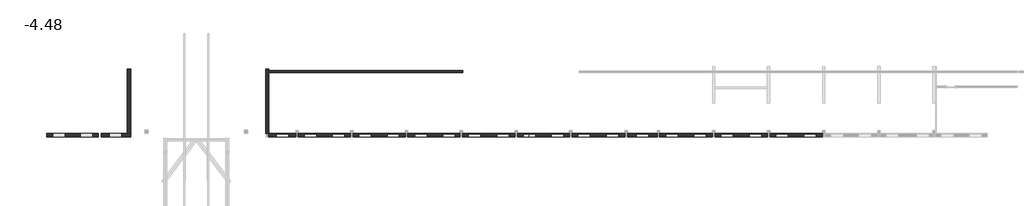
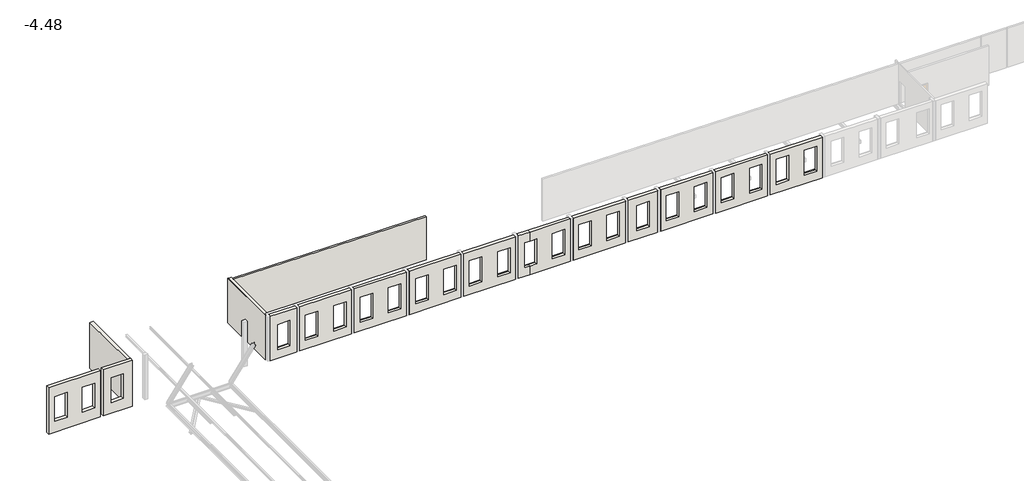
# One storey, part 1 of 4: 17 walls.
"""IFC4 building model written with IfcOpenShell, lengths in millimetres."""

from ifc_helpers import new_model, si_unit, frame, origin, place, context, project, spatial, polyline, outline, extrude, faceted_brep, element, save

model = new_model("IFC4")

# Units and contexts
model_context = context("Model", 3, world=origin())
ifc_project = project(units=[si_unit("LENGTHUNIT", "METRE", prefix="MILLI")], contexts=[model_context])

# Site, building, storey
site = spatial("IfcSite", under=ifc_project)
building = spatial("IfcBuilding", under=site)
storey = spatial("IfcBuildingStorey", under=building, Name="-4.48", Elevation=-4480.0)

# Walls
placement = place(None, origin())
element("IfcWall", 1, ObjectType="Generic - 30", at=placement, inside=storey, context=model_context, shape_type="SweptSolid", body=[
    extrude(outline(polyline([(-4480.0, -5186.275001), (-4480.0, -600.2749632), (-170.142578, -600.2749632), (-154.2740657, -5186.275001), (-4480.0, -5186.275001)]), holes=[polyline([(-3470.0, -3523.2749632), (-3470.0, -4623.2749632), (-1170.0, -4623.2749632), (-1170.0, -3523.2749632), (-3470.0, -3523.2749632)]), polyline([(-3470.0, -1089.2749632), (-3470.0, -2189.2749632), (-1170.0, -2189.2749632), (-1170.0, -1089.2749632), (-3470.0, -1089.2749632)])]), frame((0.0, 23913.3893107, 0.0), z_axis=(0.0, 1.0, 0.0), x_axis=(0.0, 0.0, 1.0)), (0.0, 0.0, 1.0), 300.0),
])
element("IfcWall", 2, ObjectType="Generic - 30", at=placement, inside=storey, context=model_context, shape_type="SweptSolid", body=[
    extrude(outline(polyline([(-4480.0, -346.2723874), (-4480.0, 2248.7276126), (-180.0007184, 2248.7276126), (-171.0214796, -346.2723874), (-4480.0, -346.2723874)]), holes=[polyline([(-3470.0, 1447.7276126), (-3470.0, 347.7276126), (-1170.0, 347.7276126), (-1170.0, 1447.7276126), (-3470.0, 1447.7276126)])]), frame((0.0, 23913.3893107, 0.0), z_axis=(0.0, 1.0, 0.0), x_axis=(0.0, 0.0, 1.0)), (0.0, 0.0, 1.0), 300.0),
])
element("IfcWall", 3, ObjectType="muro 15cm", at=placement, inside=storey, context=model_context, shape_type="Brep", body=[
    faceted_brep([(14467.3573777, 29613.3947423, -4480.0), (31567.3573777, 29613.3947423, -4480.0), (31567.3573777, 29613.3947423, -456.113878), (14467.3573777, 29613.3947423, -331.8172029), (14467.3573777, 29763.3947423, -4480.0), (14467.3573777, 29763.3947423, -331.8172029), (31487.3573777, 29763.3947423, -455.5323731), (31567.3573777, 29763.3947423, -456.113878), (31567.3573777, 29763.3947423, -4090.0), (31567.3573777, 29763.3947423, -4480.0)], [[[0, 1, 2, 3]], [[4, 5, 6, 7, 8, 9]], [[1, 0, 4, 9]], [[2, 1, 9, 8, 7]], [[0, 3, 5, 4]], [[3, 2, 7, 6, 5]]]),
])
element("IfcWall", 4, ObjectType="muro 30cm", at=placement, inside=storey, context=model_context, shape_type="Brep", body=[
    faceted_brep([(58737.3573777, 23913.3920265, -4480.0), (63357.3573777, 23913.3920265, -4480.0), (63357.3573777, 23913.3920265, -687.1893929), (58737.3573777, 23913.3920265, -653.6074842), (62827.3573777, 23913.3920265, -1330.0), (62827.3573777, 23913.3920265, -3680.0), (61727.3573777, 23913.3920265, -3680.0), (61727.3573777, 23913.3920265, -1330.0), (60337.3573777, 23913.3920265, -1330.0), (60337.3573777, 23913.3920265, -3680.0), (59237.3573777, 23913.3920265, -3680.0), (59237.3573777, 23913.3920265, -1330.0), (63357.3573777, 24213.3920265, -4480.0), (58737.3573777, 24213.3920265, -4480.0), (58737.3573777, 24213.3920265, -960.6681531), (58737.3573777, 24213.3920265, -900.6681531), (58737.3573777, 24213.3920265, -653.6074842), (63357.3573777, 24213.3920265, -687.1893929), (63357.3573777, 24213.3920265, -947.1587807), (63357.3573777, 24213.3920265, -1007.1587807), (61682.3573777, 24213.3920265, -1285.0), (61682.3573777, 24213.3920265, -3675.0), (62872.3573777, 24213.3920265, -3675.0), (62872.3573777, 24213.3920265, -1285.0), (59192.3573777, 24213.3920265, -1285.0), (59192.3573777, 24213.3920265, -3675.0), (60382.3573777, 24213.3920265, -3675.0), (60382.3573777, 24213.3920265, -1285.0), (61727.3573777, 24153.3920265, -3680.0), (62827.3573777, 24153.3920265, -3680.0), (62827.3573777, 24153.3920265, -3675.0), (61727.3573777, 24153.3920265, -3675.0), (62827.3573777, 24153.3920265, -1330.0), (61727.3573777, 24153.3920265, -1330.0), (61682.3573777, 24153.3920265, -3675.0), (61682.3573777, 24153.3920265, -1285.0), (62872.3573777, 24153.3920265, -1285.0), (62872.3573777, 24153.3920265, -3675.0), (59237.3573777, 24153.3920265, -3680.0), (60337.3573777, 24153.3920265, -3680.0), (60337.3573777, 24153.3920265, -3675.0), (59237.3573777, 24153.3920265, -3675.0), (60337.3573777, 24153.3920265, -1330.0), (59237.3573777, 24153.3920265, -1330.0), (59192.3573777, 24153.3920265, -3675.0), (59192.3573777, 24153.3920265, -1285.0), (60382.3573777, 24153.3920265, -1285.0), (60382.3573777, 24153.3920265, -3675.0)], [[[0, 1, 2, 3], [4, 5, 6, 7], [8, 9, 10, 11]], [[12, 13, 14, 15, 16, 17, 18, 19], [20, 21, 22, 23], [24, 25, 26, 27]], [[1, 0, 13, 12]], [[2, 1, 12, 19, 18, 17]], [[0, 3, 16, 15, 14, 13]], [[28, 29, 30, 31]], [[30, 29, 5, 4, 32]], [[29, 28, 6, 5]], [[28, 31, 33, 7, 6]], [[32, 4, 7, 33]], [[30, 32, 33, 31, 34, 35, 36, 37]], [[35, 34, 21, 20]], [[31, 30, 37, 22, 21, 34]], [[37, 36, 23, 22]], [[36, 35, 20, 23]], [[3, 2, 17, 16]], [[38, 39, 40, 41]], [[40, 39, 9, 8, 42]], [[39, 38, 10, 9]], [[38, 41, 43, 11, 10]], [[42, 8, 11, 43]], [[40, 42, 43, 41, 44, 45, 46, 47]], [[45, 44, 25, 24]], [[41, 40, 47, 26, 25, 44]], [[47, 46, 27, 26]], [[46, 45, 24, 27]]]),
])
element("IfcWall", 5, ObjectType="muro 30cm", at=placement, inside=storey, context=model_context, shape_type="Brep", body=[
    faceted_brep([(53897.3573777, 23913.3920265, -4480.0), (58487.3573777, 23913.3920265, -4480.0), (58487.3573777, 23913.3920265, -651.7902813), (53897.3573777, 23913.3920265, -618.4264369), (57987.3573777, 23913.3920265, -1330.0), (57987.3573777, 23913.3920265, -3680.0), (56887.3573777, 23913.3920265, -3680.0), (56887.3573777, 23913.3920265, -1330.0), (55497.3573777, 23913.3920265, -1330.0), (55497.3573777, 23913.3920265, -3680.0), (54397.3573777, 23913.3920265, -3680.0), (54397.3573777, 23913.3920265, -1330.0), (58487.3573777, 24213.3920265, -4480.0), (53897.3573777, 24213.3920265, -4480.0), (53897.3573777, 24213.3920265, -939.8694873), (53897.3573777, 24213.3920265, -879.8694873), (53897.3573777, 24213.3920265, -618.4264369), (58487.3573777, 24213.3920265, -651.7902813), (58487.3573777, 24213.3920265, -911.5204386), (58487.3573777, 24213.3920265, -971.5204386), (56842.3573777, 24213.3920265, -1285.0), (56842.3573777, 24213.3920265, -3675.0), (58032.3573777, 24213.3920265, -3675.0), (58032.3573777, 24213.3920265, -1285.0), (54352.3573777, 24213.3920265, -1285.0), (54352.3573777, 24213.3920265, -3675.0), (55542.3573777, 24213.3920265, -3675.0), (55542.3573777, 24213.3920265, -1285.0), (56887.3573777, 24153.3920265, -3680.0), (57987.3573777, 24153.3920265, -3680.0), (57987.3573777, 24153.3920265, -3675.0), (56887.3573777, 24153.3920265, -3675.0), (57987.3573777, 24153.3920265, -1330.0), (56887.3573777, 24153.3920265, -1330.0), (56842.3573777, 24153.3920265, -3675.0), (56842.3573777, 24153.3920265, -1285.0), (58032.3573777, 24153.3920265, -1285.0), (58032.3573777, 24153.3920265, -3675.0), (54397.3573777, 24153.3920265, -3680.0), (55497.3573777, 24153.3920265, -3680.0), (55497.3573777, 24153.3920265, -3675.0), (54397.3573777, 24153.3920265, -3675.0), (55497.3573777, 24153.3920265, -1330.0), (54397.3573777, 24153.3920265, -1330.0), (54352.3573777, 24153.3920265, -3675.0), (54352.3573777, 24153.3920265, -1285.0), (55542.3573777, 24153.3920265, -1285.0), (55542.3573777, 24153.3920265, -3675.0)], [[[0, 1, 2, 3], [4, 5, 6, 7], [8, 9, 10, 11]], [[12, 13, 14, 15, 16, 17, 18, 19], [20, 21, 22, 23], [24, 25, 26, 27]], [[1, 0, 13, 12]], [[2, 1, 12, 19, 18, 17]], [[0, 3, 16, 15, 14, 13]], [[28, 29, 30, 31]], [[30, 29, 5, 4, 32]], [[29, 28, 6, 5]], [[28, 31, 33, 7, 6]], [[32, 4, 7, 33]], [[30, 32, 33, 31, 34, 35, 36, 37]], [[35, 34, 21, 20]], [[31, 30, 37, 22, 21, 34]], [[37, 36, 23, 22]], [[36, 35, 20, 23]], [[3, 2, 17, 16]], [[38, 39, 40, 41]], [[40, 39, 9, 8, 42]], [[39, 38, 10, 9]], [[38, 41, 43, 11, 10]], [[42, 8, 11, 43]], [[40, 42, 43, 41, 44, 45, 46, 47]], [[45, 44, 25, 24]], [[41, 40, 47, 26, 25, 44]], [[47, 46, 27, 26]], [[46, 45, 24, 27]]]),
])
element("IfcWall", 6, ObjectType="muro 30cm", at=placement, inside=storey, context=model_context, shape_type="Brep", body=[
    faceted_brep([(41267.3573777, 23913.3920265, -4480.0), (45917.3573777, 23913.3920265, -4480.0), (45917.3573777, 23913.3920265, -560.4213218), (41267.3573777, 23913.3920265, -526.6213488), (45357.3573777, 23913.3920265, -1330.0), (45357.3573777, 23913.3920265, -3680.0), (44257.3573777, 23913.3920265, -3680.0), (44257.3573777, 23913.3920265, -1330.0), (42867.3573777, 23913.3920265, -1330.0), (42867.3573777, 23913.3920265, -3680.0), (41767.3573777, 23913.3920265, -3680.0), (41767.3573777, 23913.3920265, -1330.0), (45917.3573777, 24213.3920265, -4480.0), (41267.3573777, 24213.3920265, -4480.0), (41267.3573777, 24213.3920265, -845.4429488), (41267.3573777, 24213.3920265, -785.4429488), (41267.3573777, 24213.3920265, -526.6213488), (45917.3573777, 24213.3920265, -560.4213218), (45917.3573777, 24213.3920265, -820.0660498), (45917.3573777, 24213.3920265, -880.0660498), (44212.3573777, 24213.3920265, -1285.0), (44212.3573777, 24213.3920265, -3675.0), (45402.3573777, 24213.3920265, -3675.0), (45402.3573777, 24213.3920265, -1285.0), (41722.3573777, 24213.3920265, -1285.0), (41722.3573777, 24213.3920265, -3675.0), (42912.3573777, 24213.3920265, -3675.0), (42912.3573777, 24213.3920265, -1285.0), (44257.3573777, 24153.3920265, -3680.0), (45357.3573777, 24153.3920265, -3680.0), (45357.3573777, 24153.3920265, -3675.0), (44257.3573777, 24153.3920265, -3675.0), (45357.3573777, 24153.3920265, -1330.0), (44257.3573777, 24153.3920265, -1330.0), (44212.3573777, 24153.3920265, -3675.0), (44212.3573777, 24153.3920265, -1285.0), (45402.3573777, 24153.3920265, -1285.0), (45402.3573777, 24153.3920265, -3675.0), (41767.3573777, 24153.3920265, -3680.0), (42867.3573777, 24153.3920265, -3680.0), (42867.3573777, 24153.3920265, -3675.0), (41767.3573777, 24153.3920265, -3675.0), (42867.3573777, 24153.3920265, -1330.0), (41767.3573777, 24153.3920265, -1330.0), (41722.3573777, 24153.3920265, -3675.0), (41722.3573777, 24153.3920265, -1285.0), (42912.3573777, 24153.3920265, -1285.0), (42912.3573777, 24153.3920265, -3675.0)], [[[0, 1, 2, 3], [4, 5, 6, 7], [8, 9, 10, 11]], [[12, 13, 14, 15, 16, 17, 18, 19], [20, 21, 22, 23], [24, 25, 26, 27]], [[1, 0, 13, 12]], [[2, 1, 12, 19, 18, 17]], [[0, 3, 16, 15, 14, 13]], [[3, 2, 17, 16]], [[28, 29, 30, 31]], [[30, 29, 5, 4, 32]], [[29, 28, 6, 5]], [[28, 31, 33, 7, 6]], [[32, 4, 7, 33]], [[30, 32, 33, 31, 34, 35, 36, 37]], [[35, 34, 21, 20]], [[31, 30, 37, 22, 21, 34]], [[37, 36, 23, 22]], [[36, 35, 20, 23]], [[38, 39, 40, 41]], [[40, 39, 9, 8, 42]], [[39, 38, 10, 9]], [[38, 41, 43, 11, 10]], [[42, 8, 11, 43]], [[40, 42, 43, 41, 44, 45, 46, 47]], [[45, 44, 25, 24]], [[41, 40, 47, 26, 25, 44]], [[47, 46, 27, 26]], [[46, 45, 24, 27]]]),
])
element("IfcWall", 7, ObjectType="muro 30cm", at=placement, inside=storey, context=model_context, shape_type="Brep", body=[
    faceted_brep([(36427.3573777, 23913.3920265, -4480.0), (37427.3573777, 23913.3920265, -4480.0), (37427.3573777, 23913.3920265, -3680.0), (36927.3573777, 23913.3920265, -3680.0), (36927.3573777, 23913.3920265, -1330.0), (37427.3573777, 23913.3920265, -1330.0), (37427.3573777, 23913.3920265, -498.7091129), (36427.3573777, 23913.3920265, -491.4403015), (37427.3573777, 24213.3920265, -4480.0), (36427.3573777, 24213.3920265, -4480.0), (36427.3573777, 24213.3920265, -810.463618), (36427.3573777, 24213.3920265, -750.463618), (36427.3573777, 24213.3920265, -491.4403015), (37427.3573777, 24213.3920265, -498.7091129), (37427.3573777, 24213.3920265, -1285.0), (36882.3573777, 24213.3920265, -1285.0), (36882.3573777, 24213.3920265, -3675.0), (37427.3573777, 24213.3920265, -3675.0), (37427.3573777, 24153.3920265, -3675.0), (37427.3573777, 24153.3920265, -3680.0), (37427.3573777, 24153.3920265, -1330.0), (37427.3573777, 24153.3920265, -1285.0), (36927.3573777, 24153.3920265, -3675.0), (36927.3573777, 24153.3920265, -3680.0), (36927.3573777, 24153.3920265, -1330.0), (36882.3573777, 24153.3920265, -3675.0), (36882.3573777, 24153.3920265, -1285.0)], [[[0, 1, 2, 3, 4, 5, 6, 7]], [[8, 9, 10, 11, 12, 13, 14, 15, 16, 17]], [[1, 0, 9, 8]], [[1, 8, 17, 18, 19, 2]], [[13, 6, 5, 20, 21, 14]], [[0, 7, 12, 11, 10, 9]], [[7, 6, 13, 12]], [[22, 23, 19, 18]], [[23, 3, 2, 19]], [[23, 22, 24, 4, 3]], [[4, 24, 20, 5]], [[24, 22, 25, 26, 21, 20]], [[26, 25, 16, 15]], [[25, 22, 18, 17, 16]], [[26, 15, 14, 21]]]),
])
element("IfcWall", 8, ObjectType="muro 30cm", at=placement, inside=storey, context=model_context, shape_type="Brep", body=[
    faceted_brep([(31587.3573777, 23913.3920265, -4480.0), (36177.3573777, 23913.3920265, -4480.0), (36177.3573777, 23913.3920265, -489.6230987), (31587.3573777, 23913.3920265, -456.2592543), (35677.3573777, 23913.3920265, -1330.0), (35677.3573777, 23913.3920265, -3680.0), (34577.3573777, 23913.3920265, -3680.0), (34577.3573777, 23913.3920265, -1330.0), (33187.3573777, 23913.3920265, -1330.0), (33187.3573777, 23913.3920265, -3680.0), (32087.3573777, 23913.3920265, -3680.0), (32087.3573777, 23913.3920265, -1330.0), (36177.3573777, 24213.3920265, -4480.0), (31587.3573777, 24213.3920265, -4480.0), (31587.3573777, 24213.3920265, -775.7714068), (31587.3573777, 24213.3920265, -715.7714068), (31587.3573777, 24213.3920265, -456.2592543), (36177.3573777, 24213.3920265, -489.6230987), (36177.3573777, 24213.3920265, -749.4050275), (36177.3573777, 24213.3920265, -809.4050275), (34532.3573777, 24213.3920265, -1285.0), (34532.3573777, 24213.3920265, -3675.0), (35722.3573777, 24213.3920265, -3675.0), (35722.3573777, 24213.3920265, -1285.0), (32042.3573777, 24213.3920265, -1285.0), (32042.3573777, 24213.3920265, -3675.0), (33232.3573777, 24213.3920265, -3675.0), (33232.3573777, 24213.3920265, -1285.0), (32087.3573777, 24153.3920265, -3680.0), (33187.3573777, 24153.3920265, -3680.0), (33187.3573777, 24153.3920265, -3675.0), (32087.3573777, 24153.3920265, -3675.0), (33187.3573777, 24153.3920265, -1330.0), (32087.3573777, 24153.3920265, -1330.0), (32042.3573777, 24153.3920265, -1285.0), (33232.3573777, 24153.3920265, -1285.0), (33232.3573777, 24153.3920265, -3675.0), (32042.3573777, 24153.3920265, -3675.0), (34577.3573777, 24153.3920265, -3680.0), (35677.3573777, 24153.3920265, -3680.0), (35677.3573777, 24153.3920265, -3675.0), (34577.3573777, 24153.3920265, -3675.0), (35677.3573777, 24153.3920265, -1330.0), (34577.3573777, 24153.3920265, -1330.0), (34532.3573777, 24153.3920265, -3675.0), (34532.3573777, 24153.3920265, -1285.0), (35722.3573777, 24153.3920265, -1285.0), (35722.3573777, 24153.3920265, -3675.0)], [[[0, 1, 2, 3], [4, 5, 6, 7], [8, 9, 10, 11]], [[12, 13, 14, 15, 16, 17, 18, 19], [20, 21, 22, 23], [24, 25, 26, 27]], [[1, 0, 13, 12]], [[2, 1, 12, 19, 18, 17]], [[0, 3, 16, 15, 14, 13]], [[28, 29, 30, 31]], [[29, 9, 8, 32, 30]], [[29, 28, 10, 9]], [[10, 28, 31, 33, 11]], [[32, 8, 11, 33]], [[34, 35, 36, 30, 32, 33, 31, 37]], [[34, 37, 25, 24]], [[25, 37, 31, 30, 36, 26]], [[36, 35, 27, 26]], [[35, 34, 24, 27]], [[3, 2, 17, 16]], [[38, 39, 40, 41]], [[40, 39, 5, 4, 42]], [[39, 38, 6, 5]], [[38, 41, 43, 7, 6]], [[42, 4, 7, 43]], [[40, 42, 43, 41, 44, 45, 46, 47]], [[45, 44, 21, 20]], [[41, 40, 47, 22, 21, 44]], [[47, 46, 23, 22]], [[46, 45, 20, 23]]]),
])
element("IfcWall", 9, ObjectType="muro 30cm", at=placement, inside=storey, context=model_context, shape_type="Brep", body=[
    faceted_brep([(26747.3573777, 23913.3920265, -4480.0), (31337.3573777, 23913.3920265, -4480.0), (31337.3573777, 23913.3920265, -454.4420514), (26747.3573777, 23913.3920265, -421.078207), (30927.3573777, 23913.3920265, -1330.0), (30927.3573777, 23913.3920265, -3680.0), (29827.3573777, 23913.3920265, -3680.0), (29827.3573777, 23913.3920265, -1330.0), (28437.3573777, 23913.3920265, -1330.0), (28437.3573777, 23913.3920265, -3680.0), (27337.3573777, 23913.3920265, -3680.0), (27337.3573777, 23913.3920265, -1330.0), (31337.3573777, 24213.3920265, -4480.0), (26747.3573777, 24213.3920265, -4480.0), (26747.3573777, 24213.3920265, -741.631847), (26747.3573777, 24213.3920265, -681.631847), (26747.3573777, 24213.3920265, -421.078207), (31337.3573777, 24213.3920265, -454.4420514), (31337.3573777, 24213.3920265, -714.2762435), (31337.3573777, 24213.3920265, -774.2762435), (29782.3573777, 24213.3920265, -1285.0), (29782.3573777, 24213.3920265, -3675.0), (30972.3573777, 24213.3920265, -3675.0), (30972.3573777, 24213.3920265, -1285.0), (27292.3573777, 24213.3920265, -1285.0), (27292.3573777, 24213.3920265, -3675.0), (28482.3573777, 24213.3920265, -3675.0), (28482.3573777, 24213.3920265, -1285.0), (29827.3573777, 24153.3920265, -3680.0), (30927.3573777, 24153.3920265, -3680.0), (30927.3573777, 24153.3920265, -3675.0), (29827.3573777, 24153.3920265, -3675.0), (30927.3573777, 24153.3920265, -1330.0), (29827.3573777, 24153.3920265, -1330.0), (29782.3573777, 24153.3920265, -3675.0), (29782.3573777, 24153.3920265, -1285.0), (30972.3573777, 24153.3920265, -1285.0), (30972.3573777, 24153.3920265, -3675.0), (27337.3573777, 24153.3920265, -3680.0), (28437.3573777, 24153.3920265, -3680.0), (28437.3573777, 24153.3920265, -3675.0), (27337.3573777, 24153.3920265, -3675.0), (28437.3573777, 24153.3920265, -1330.0), (27337.3573777, 24153.3920265, -1330.0), (27292.3573777, 24153.3920265, -3675.0), (27292.3573777, 24153.3920265, -1285.0), (28482.3573777, 24153.3920265, -1285.0), (28482.3573777, 24153.3920265, -3675.0)], [[[0, 1, 2, 3], [4, 5, 6, 7], [8, 9, 10, 11]], [[12, 13, 14, 15, 16, 17, 18, 19], [20, 21, 22, 23], [24, 25, 26, 27]], [[1, 0, 13, 12]], [[2, 1, 12, 19, 18, 17]], [[0, 3, 16, 15, 14, 13]], [[3, 2, 17, 16]], [[28, 29, 30, 31]], [[30, 29, 5, 4, 32]], [[29, 28, 6, 5]], [[28, 31, 33, 7, 6]], [[32, 4, 7, 33]], [[30, 32, 33, 31, 34, 35, 36, 37]], [[35, 34, 21, 20]], [[31, 30, 37, 22, 21, 34]], [[37, 36, 23, 22]], [[36, 35, 20, 23]], [[38, 39, 40, 41]], [[40, 39, 9, 8, 42]], [[39, 38, 10, 9]], [[38, 41, 43, 11, 10]], [[42, 8, 11, 43]], [[40, 42, 43, 41, 44, 45, 46, 47]], [[45, 44, 25, 24]], [[41, 40, 47, 26, 25, 44]], [[47, 46, 27, 26]], [[46, 45, 24, 27]]]),
])
element("IfcWall", 10, ObjectType="muro 30cm", at=placement, inside=storey, context=model_context, shape_type="Brep", body=[
    faceted_brep([(21907.3573777, 23913.3920265, -4480.0), (26497.3573777, 23913.3920265, -4480.0), (26497.3573777, 23913.3920265, -420.0), (26497.3573777, 23913.3920265, -419.2610042), (21907.3573777, 23913.3920265, -385.8971598), (25997.3573777, 23913.3920265, -1330.0), (25997.3573777, 23913.3920265, -3680.0), (24897.3573777, 23913.3920265, -3680.0), (24897.3573777, 23913.3920265, -1330.0), (23507.3573777, 23913.3920265, -1330.0), (23507.3573777, 23913.3920265, -3680.0), (22407.3573777, 23913.3920265, -3680.0), (22407.3573777, 23913.3920265, -1330.0), (26497.3573777, 24213.3920265, -4480.0), (21907.3573777, 24213.3920265, -4480.0), (21907.3573777, 24213.3920265, -685.6492091), (21907.3573777, 24213.3920265, -625.6492091), (21907.3573777, 24213.3920265, -385.8971598), (26497.3573777, 24213.3920265, -419.2610042), (26497.3573777, 24213.3920265, -678.0780884), (26497.3573777, 24213.3920265, -738.0780884), (24852.3573777, 24213.3920265, -1285.0), (24852.3573777, 24213.3920265, -3675.0), (26042.3573777, 24213.3920265, -3675.0), (26042.3573777, 24213.3920265, -1285.0), (22362.3573777, 24213.3920265, -1285.0), (22362.3573777, 24213.3920265, -3675.0), (23552.3573777, 24213.3920265, -3675.0), (23552.3573777, 24213.3920265, -1285.0), (24897.3573777, 24153.3920265, -3680.0), (25997.3573777, 24153.3920265, -3680.0), (25997.3573777, 24153.3920265, -3675.0), (24897.3573777, 24153.3920265, -3675.0), (25997.3573777, 24153.3920265, -1330.0), (24897.3573777, 24153.3920265, -1330.0), (24852.3573777, 24153.3920265, -3675.0), (24852.3573777, 24153.3920265, -1285.0), (26042.3573777, 24153.3920265, -1285.0), (26042.3573777, 24153.3920265, -3675.0), (22407.3573777, 24153.3920265, -3680.0), (23507.3573777, 24153.3920265, -3680.0), (23507.3573777, 24153.3920265, -3675.0), (22407.3573777, 24153.3920265, -3675.0), (23507.3573777, 24153.3920265, -1330.0), (22407.3573777, 24153.3920265, -1330.0), (22362.3573777, 24153.3920265, -3675.0), (22362.3573777, 24153.3920265, -1285.0), (23552.3573777, 24153.3920265, -1285.0), (23552.3573777, 24153.3920265, -3675.0)], [[[0, 1, 2, 3, 4], [5, 6, 7, 8], [9, 10, 11, 12]], [[13, 14, 15, 16, 17, 18, 19, 20], [21, 22, 23, 24], [25, 26, 27, 28]], [[1, 0, 14, 13]], [[3, 2, 1, 13, 20, 19, 18]], [[0, 4, 17, 16, 15, 14]], [[4, 3, 18, 17]], [[29, 30, 31, 32]], [[31, 30, 6, 5, 33]], [[30, 29, 7, 6]], [[29, 32, 34, 8, 7]], [[33, 5, 8, 34]], [[31, 33, 34, 32, 35, 36, 37, 38]], [[36, 35, 22, 21]], [[32, 31, 38, 23, 22, 35]], [[38, 37, 24, 23]], [[37, 36, 21, 24]], [[39, 40, 41, 42]], [[41, 40, 10, 9, 43]], [[40, 39, 11, 10]], [[39, 42, 44, 12, 11]], [[43, 9, 12, 44]], [[41, 43, 44, 42, 45, 46, 47, 48]], [[46, 45, 26, 25]], [[42, 41, 48, 27, 26, 45]], [[48, 47, 28, 27]], [[47, 46, 25, 28]]]),
])
element("IfcWall", 11, ObjectType="muro 30cm", at=placement, inside=storey, context=model_context, shape_type="Brep", body=[
    faceted_brep([(17067.3573777, 23913.3920265, -4480.0), (21657.3573777, 23913.3920265, -4480.0), (21657.3573777, 23913.3920265, -384.0799569), (17067.3573777, 23913.3920265, -350.7161125), (21157.3573777, 23913.3920265, -1330.0), (21157.3573777, 23913.3920265, -3680.0), (20057.3573777, 23913.3920265, -3680.0), (20057.3573777, 23913.3920265, -1330.0), (18667.3573777, 23913.3920265, -1330.0), (18667.3573777, 23913.3920265, -3680.0), (17567.3573777, 23913.3920265, -3680.0), (17567.3573777, 23913.3920265, -1330.0), (21657.3573777, 24213.3920265, -4480.0), (17067.3573777, 24213.3920265, -4480.0), (17067.3573777, 24213.3920265, -666.8466581), (17067.3573777, 24213.3920265, -606.8466581), (17067.3573777, 24213.3920265, -350.7161125), (21657.3573777, 24213.3920265, -384.0799569), (21657.3573777, 24213.3920265, -640.4802788), (21657.3573777, 24213.3920265, -700.4802788), (20012.3573777, 24213.3920265, -1285.0), (20012.3573777, 24213.3920265, -3675.0), (21202.3573777, 24213.3920265, -3675.0), (21202.3573777, 24213.3920265, -1285.0), (17522.3573777, 24213.3920265, -1285.0), (17522.3573777, 24213.3920265, -3675.0), (18712.3573777, 24213.3920265, -3675.0), (18712.3573777, 24213.3920265, -1285.0), (20057.3573777, 24153.3920265, -3680.0), (21157.3573777, 24153.3920265, -3680.0), (21157.3573777, 24153.3920265, -3675.0), (20057.3573777, 24153.3920265, -3675.0), (21157.3573777, 24153.3920265, -1330.0), (20057.3573777, 24153.3920265, -1330.0), (20012.3573777, 24153.3920265, -3675.0), (20012.3573777, 24153.3920265, -1285.0), (21202.3573777, 24153.3920265, -1285.0), (21202.3573777, 24153.3920265, -3675.0), (17567.3573777, 24153.3920265, -3680.0), (18667.3573777, 24153.3920265, -3680.0), (18667.3573777, 24153.3920265, -3675.0), (17567.3573777, 24153.3920265, -3675.0), (18667.3573777, 24153.3920265, -1330.0), (17567.3573777, 24153.3920265, -1330.0), (17522.3573777, 24153.3920265, -3675.0), (17522.3573777, 24153.3920265, -1285.0), (18712.3573777, 24153.3920265, -1285.0), (18712.3573777, 24153.3920265, -3675.0)], [[[0, 1, 2, 3], [4, 5, 6, 7], [8, 9, 10, 11]], [[12, 13, 14, 15, 16, 17, 18, 19], [20, 21, 22, 23], [24, 25, 26, 27]], [[1, 0, 13, 12]], [[2, 1, 12, 19, 18, 17]], [[0, 3, 16, 15, 14, 13]], [[3, 2, 17, 16]], [[28, 29, 30, 31]], [[30, 29, 5, 4, 32]], [[29, 28, 6, 5]], [[28, 31, 33, 7, 6]], [[32, 4, 7, 33]], [[30, 32, 33, 31, 34, 35, 36, 37]], [[35, 34, 21, 20]], [[31, 30, 37, 22, 21, 34]], [[37, 36, 23, 22]], [[36, 35, 20, 23]], [[38, 39, 40, 41]], [[40, 39, 9, 8, 42]], [[39, 38, 10, 9]], [[38, 41, 43, 11, 10]], [[42, 8, 11, 43]], [[40, 42, 43, 41, 44, 45, 46, 47]], [[45, 44, 25, 24]], [[41, 40, 47, 26, 25, 44]], [[47, 46, 27, 26]], [[46, 45, 24, 27]]]),
])
element("IfcWall", 12, ObjectType="muro 30cm", at=placement, inside=storey, context=model_context, shape_type="Brep", body=[
    faceted_brep([(49007.3573777, 23913.3920265, -4480.0), (53647.3573777, 23913.3920265, -4480.0), (53647.3573777, 23913.3920265, -618.4264369), (53647.3573777, 23913.3920265, -616.6092341), (49007.3573777, 23913.3920265, -582.8819491), (50607.3573777, 23913.3920265, -1330.0), (50607.3573777, 23913.3920265, -3680.0), (49507.3573777, 23913.3920265, -3680.0), (49507.3573777, 23913.3920265, -1330.0), (53097.3573777, 23913.3920265, -1330.0), (53097.3573777, 23913.3920265, -3680.0), (51997.3573777, 23913.3920265, -3680.0), (51997.3573777, 23913.3920265, -1330.0), (53647.3573777, 24213.3920265, -4480.0), (49007.3573777, 24213.3920265, -4480.0), (49007.3573777, 24213.3920265, -903.1373839), (49007.3573777, 24213.3920265, -843.1373839), (49007.3573777, 24213.3920265, -582.8819491), (53647.3573777, 24213.3920265, -616.6092341), (53647.3573777, 24213.3920265, -877.7596814), (53647.3573777, 24213.3920265, -937.7596814), (49462.3573777, 24213.3920265, -3675.0), (50652.3573777, 24213.3920265, -3675.0), (50652.3573777, 24213.3920265, -1285.0), (49462.3573777, 24213.3920265, -1285.0), (51952.3573777, 24213.3920265, -1285.0), (51952.3573777, 24213.3920265, -3675.0), (53142.3573777, 24213.3920265, -3675.0), (53142.3573777, 24213.3920265, -1285.0), (49507.3573777, 24153.3920265, -3680.0), (50607.3573777, 24153.3920265, -3680.0), (50607.3573777, 24153.3920265, -3675.0), (49507.3573777, 24153.3920265, -3675.0), (50607.3573777, 24153.3920265, -1330.0), (49507.3573777, 24153.3920265, -1330.0), (49462.3573777, 24153.3920265, -3675.0), (49462.3573777, 24153.3920265, -1285.0), (50652.3573777, 24153.3920265, -1285.0), (50652.3573777, 24153.3920265, -3675.0), (51997.3573777, 24153.3920265, -3680.0), (53097.3573777, 24153.3920265, -3680.0), (53097.3573777, 24153.3920265, -3675.0), (51997.3573777, 24153.3920265, -3675.0), (53097.3573777, 24153.3920265, -1330.0), (51997.3573777, 24153.3920265, -1330.0), (51952.3573777, 24153.3920265, -3675.0), (51952.3573777, 24153.3920265, -1285.0), (53142.3573777, 24153.3920265, -1285.0), (53142.3573777, 24153.3920265, -3675.0)], [[[0, 1, 2, 3, 4], [5, 6, 7, 8], [9, 10, 11, 12]], [[13, 14, 15, 16, 17, 18, 19, 20], [21, 22, 23, 24], [25, 26, 27, 28]], [[1, 0, 14, 13]], [[3, 2, 1, 13, 20, 19, 18]], [[0, 4, 17, 16, 15, 14]], [[29, 30, 31, 32]], [[31, 30, 6, 5, 33]], [[30, 29, 7, 6]], [[29, 32, 34, 8, 7]], [[33, 5, 8, 34]], [[31, 33, 34, 32, 35, 36, 37, 38]], [[36, 35, 21, 24]], [[32, 31, 38, 22, 21, 35]], [[38, 37, 23, 22]], [[37, 36, 24, 23]], [[39, 40, 41, 42]], [[41, 40, 10, 9, 43]], [[40, 39, 11, 10]], [[39, 42, 44, 12, 11]], [[43, 9, 12, 44]], [[41, 43, 44, 42, 45, 46, 47, 48]], [[46, 45, 26, 25]], [[42, 41, 48, 27, 26, 45]], [[48, 47, 28, 27]], [[47, 46, 25, 28]], [[4, 3, 18, 17]]]),
])
element("IfcWall", 13, ObjectType="muro 30cm", at=placement, inside=storey, context=model_context, shape_type="Brep", body=[
    faceted_brep([(46167.3573777, 23913.3920265, -4480.0), (48757.3573777, 23913.3920265, -4480.0), (48757.3573777, 23913.3920265, -581.0647463), (46167.3573777, 23913.3920265, -562.2385247), (48012.3573777, 23913.3920265, -1330.0), (48012.3573777, 23913.3920265, -3680.0), (46912.3573777, 23913.3920265, -3680.0), (46912.3573777, 23913.3920265, -1330.0), (48757.3573777, 24213.3920265, -4480.0), (46167.3573777, 24213.3920265, -4480.0), (46167.3573777, 24213.3920265, -881.6474595), (46167.3573777, 24213.3920265, -821.6474595), (46167.3573777, 24213.3920265, -562.2385247), (48757.3573777, 24213.3920265, -581.0647463), (48757.3573777, 24213.3920265, -841.2640736), (48757.3573777, 24213.3920265, -901.2640736), (46867.3573777, 24213.3920265, -1285.0), (46867.3573777, 24213.3920265, -3675.0), (48057.3573777, 24213.3920265, -3675.0), (48057.3573777, 24213.3920265, -1285.0), (46912.3573777, 24153.3920265, -3680.0), (48012.3573777, 24153.3920265, -3680.0), (48012.3573777, 24153.3920265, -3675.0), (46912.3573777, 24153.3920265, -3675.0), (48012.3573777, 24153.3920265, -1330.0), (46912.3573777, 24153.3920265, -1330.0), (46867.3573777, 24153.3920265, -3675.0), (46867.3573777, 24153.3920265, -1285.0), (48057.3573777, 24153.3920265, -1285.0), (48057.3573777, 24153.3920265, -3675.0)], [[[0, 1, 2, 3], [4, 5, 6, 7]], [[8, 9, 10, 11, 12, 13, 14, 15], [16, 17, 18, 19]], [[1, 0, 9, 8]], [[2, 1, 8, 15, 14, 13]], [[0, 3, 12, 11, 10, 9]], [[3, 2, 13, 12]], [[20, 21, 22, 23]], [[22, 21, 5, 4, 24]], [[21, 20, 6, 5]], [[20, 23, 25, 7, 6]], [[24, 4, 7, 25]], [[22, 24, 25, 23, 26, 27, 28, 29]], [[27, 26, 17, 16]], [[23, 22, 29, 18, 17, 26]], [[29, 28, 19, 18]], [[28, 27, 16, 19]]]),
])
element("IfcWall", 14, ObjectType="muro 30cm", at=placement, inside=storey, context=model_context, shape_type="Brep", body=[
    faceted_brep([(14467.3573777, 24223.3920265, -4480.0), (14467.3573777, 29613.3947423, -4480.0), (14467.3573777, 29763.3947423, -4480.0), (14467.3573777, 29913.3920265, -4480.0), (14467.3573777, 29913.3920265, -331.8172029), (14467.3573777, 29763.3947423, -331.8172029), (14467.3573777, 29613.3947423, -331.8172029), (14467.3573777, 24223.3920265, -331.8172029), (14167.3573777, 24223.3920265, -4480.0), (14167.3573777, 24223.3920265, -329.3827857), (14167.3573777, 29913.3920265, -329.3827857), (14167.3573777, 29913.3920265, -4480.0), (14217.3573777, 29913.3920265, -330.0094238), (14217.3573777, 24223.3920265, -330.0)], [[[0, 1, 2, 3, 4, 5, 6, 7]], [[8, 9, 10, 11]], [[3, 2, 1, 0, 8, 11]], [[4, 3, 11, 10, 12]], [[0, 7, 13, 9, 8]], [[7, 6, 5, 4, 12, 13]], [[12, 10, 9, 13]]]),
])
element("IfcWall", 15, ObjectType="muro 30cm", at=placement, inside=storey, context=model_context, shape_type="Brep", body=[
    faceted_brep([(14467.3573777, 23913.3920265, -4480.0), (16817.3573777, 23913.3920265, -4480.0), (16817.3573777, 23913.3920265, -348.8989097), (14467.3573777, 23913.3920265, -331.8172029), (16192.3573777, 23913.3920265, -1330.0), (16192.3573777, 23913.3920265, -3680.0), (15092.3573777, 23913.3920265, -3680.0), (15092.3573777, 23913.3920265, -1330.0), (14467.3573777, 24213.3920265, -4480.0), (14467.3573777, 24213.3920265, -646.8719955), (14467.3573777, 24213.3920265, -586.8719955), (14467.3573777, 24213.3920265, -331.8172029), (16817.3573777, 24213.3920265, -348.8989097), (16817.3573777, 24213.3920265, -606.4551105), (16817.3573777, 24213.3920265, -666.4551105), (16817.3573777, 24213.3920265, -4480.0), (15047.3573777, 24213.3920265, -1285.0), (15047.3573777, 24213.3920265, -3675.0), (16237.3573777, 24213.3920265, -3675.0), (16237.3573777, 24213.3920265, -1285.0), (15092.3573777, 24153.3920265, -3680.0), (16192.3573777, 24153.3920265, -3680.0), (16192.3573777, 24153.3920265, -3675.0), (15092.3573777, 24153.3920265, -3675.0), (16192.3573777, 24153.3920265, -1330.0), (15092.3573777, 24153.3920265, -1330.0), (15047.3573777, 24153.3920265, -1285.0), (16237.3573777, 24153.3920265, -1285.0), (16237.3573777, 24153.3920265, -3675.0), (15047.3573777, 24153.3920265, -3675.0)], [[[0, 1, 2, 3], [4, 5, 6, 7]], [[8, 9, 10, 11, 12, 13, 14, 15], [16, 17, 18, 19]], [[1, 0, 8, 15]], [[2, 1, 15, 14, 13, 12]], [[0, 3, 11, 10, 9, 8]], [[20, 21, 22, 23]], [[21, 5, 4, 24, 22]], [[21, 20, 6, 5]], [[6, 20, 23, 25, 7]], [[24, 4, 7, 25]], [[26, 27, 28, 22, 24, 25, 23, 29]], [[26, 29, 17, 16]], [[17, 29, 23, 22, 28, 18]], [[28, 27, 19, 18]], [[27, 26, 16, 19]], [[3, 2, 12, 11]]]),
])
element("IfcWall", 16, ObjectType="muro 30cm", at=placement, inside=storey, context=model_context, shape_type="SweptSolid", body=[
    extrude(outline(polyline([(-4480.0, 2248.7276126), (-180.0007184, 2248.7276126), (-178.9626561, 1948.7276126), (-4480.0, 1948.7276126), (-4480.0, 2248.7276126)])), frame((0.0, 24223.3920265, 0.0), z_axis=(0.0, 1.0, 0.0), x_axis=(0.0, 0.0, 1.0)), (0.0, 0.0, 1.0), 5690.0),
])
element("IfcWall", 17, ObjectType="muro 30cm", at=placement, inside=storey, context=model_context, shape_type="Brep", body=[
    faceted_brep([(37427.3573777, 23913.3920265, -4480.0), (41017.3573777, 23913.3920265, -4480.0), (41017.3573777, 23913.3920265, -524.8041459), (37427.3573777, 23913.3920265, -498.7091129), (37427.3573777, 23913.3920265, -1330.0), (38027.3573777, 23913.3920265, -1330.0), (38027.3573777, 23913.3920265, -3680.0), (37427.3573777, 23913.3920265, -3680.0), (40517.3573777, 23913.3920265, -1330.0), (40517.3573777, 23913.3920265, -3680.0), (39417.3573777, 23913.3920265, -3680.0), (39417.3573777, 23913.3920265, -1330.0), (41017.3573777, 24213.3920265, -4480.0), (37427.3573777, 24213.3920265, -4480.0), (37427.3573777, 24213.3920265, -3675.0), (38072.3573777, 24213.3920265, -3675.0), (38072.3573777, 24213.3920265, -1285.0), (37427.3573777, 24213.3920265, -1285.0), (37427.3573777, 24213.3920265, -498.7091129), (41017.3573777, 24213.3920265, -524.8041459), (41017.3573777, 24213.3920265, -784.0972387), (41017.3573777, 24213.3920265, -844.0972387), (39372.3573777, 24213.3920265, -1285.0), (39372.3573777, 24213.3920265, -3675.0), (40562.3573777, 24213.3920265, -3675.0), (40562.3573777, 24213.3920265, -1285.0), (37427.3573777, 24153.3920265, -1285.0), (37427.3573777, 24153.3920265, -1330.0), (37427.3573777, 24153.3920265, -3680.0), (37427.3573777, 24153.3920265, -3675.0), (39417.3573777, 24153.3920265, -3680.0), (40517.3573777, 24153.3920265, -3680.0), (40517.3573777, 24153.3920265, -3675.0), (39417.3573777, 24153.3920265, -3675.0), (40517.3573777, 24153.3920265, -1330.0), (39417.3573777, 24153.3920265, -1330.0), (39372.3573777, 24153.3920265, -3675.0), (39372.3573777, 24153.3920265, -1285.0), (40562.3573777, 24153.3920265, -1285.0), (40562.3573777, 24153.3920265, -3675.0), (38027.3573777, 24153.3920265, -3680.0), (38027.3573777, 24153.3920265, -3675.0), (38027.3573777, 24153.3920265, -1330.0), (38072.3573777, 24153.3920265, -1285.0), (38072.3573777, 24153.3920265, -3675.0)], [[[0, 1, 2, 3, 4, 5, 6, 7], [8, 9, 10, 11]], [[12, 13, 14, 15, 16, 17, 18, 19, 20, 21], [22, 23, 24, 25]], [[1, 0, 13, 12]], [[2, 1, 12, 21, 20, 19]], [[3, 18, 17, 26, 27, 4]], [[13, 0, 7, 28, 29, 14]], [[3, 2, 19, 18]], [[30, 31, 32, 33]], [[32, 31, 9, 8, 34]], [[31, 30, 10, 9]], [[30, 33, 35, 11, 10]], [[34, 8, 11, 35]], [[32, 34, 35, 33, 36, 37, 38, 39]], [[37, 36, 23, 22]], [[33, 32, 39, 24, 23, 36]], [[39, 38, 25, 24]], [[38, 37, 22, 25]], [[40, 41, 29, 28]], [[41, 40, 6, 5, 42]], [[6, 40, 28, 7]], [[42, 5, 4, 27]], [[41, 42, 27, 26, 43, 44]], [[41, 44, 15, 14, 29]], [[44, 43, 16, 15]], [[16, 43, 26, 17]]]),
])

save(model, "model.ifc")
